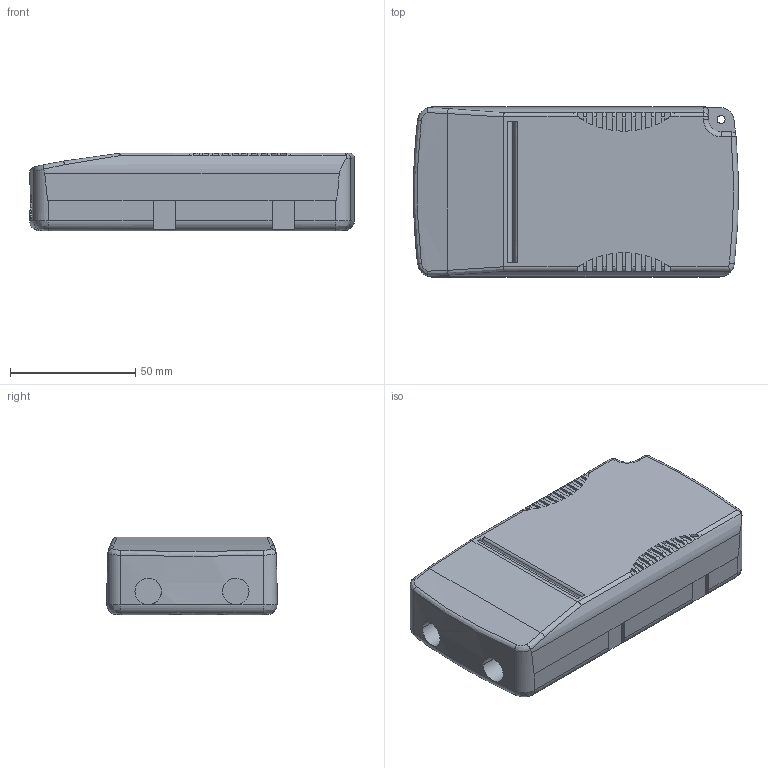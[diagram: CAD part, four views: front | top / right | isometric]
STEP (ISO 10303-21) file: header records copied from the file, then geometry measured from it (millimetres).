
FILE_DESCRIPTION((''),'2;1');
FILE_NAME('15008194Z_DATAMEC_130X68X31','2015-09-03T',('juergen.hrach'),(''),'PRO/ENGINEER BY PARAMETRIC TECHNOLOGY CORPORATION, 2014000','PRO/ENGINEER BY PARAMETRIC TECHNOLOGY CORPORATION, 2014000','');
FILE_SCHEMA(('AUTOMOTIVE_DESIGN { 1 0 10303 214 1 1 1 1 }'));
Length unit declared in the file: millimetre
Products named in the file (1): 15008194Z_DATAMEC_130X68X31
Bounding box: 129.88 x 68 x 31 mm (x, y, z)
Volume: 254933.6 mm3; surface area: 28598.8 mm2
Topology: 1 solids, 1 shells, 200 faces, 560 edges, 363 vertices
Faces by surface type: plane 109, cylinder 70, bspline 12, torus 6, sphere 2, extrusion 1
Entity records: 7805 total; most frequent: CARTESIAN_POINT 1935, ORIENTED_EDGE 1120, DIRECTION 1075, EDGE_CURVE 560, AXIS2_PLACEMENT_3D 387, VERTEX_POINT 363, VECTOR 301, LINE 300
